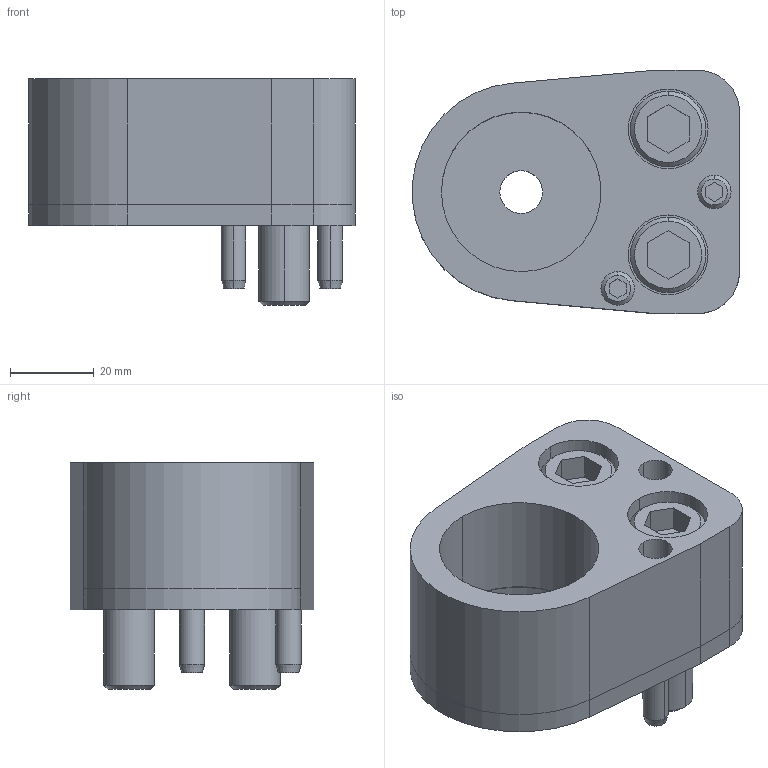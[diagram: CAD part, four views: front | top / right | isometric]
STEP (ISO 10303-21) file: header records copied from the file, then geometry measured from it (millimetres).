
FILE_DESCRIPTION(/* description */ (''),/* implementation_level */ '2;1');
FILE_NAME(/* name */ '3d_dp-ap38_02808_r00.stp',/* time_stamp */ '2011-01-10T14:15:57+09:00',/* author */ ('MISUMI'),/* organization */ (''),/* preprocessor_version */ 'ST-DEVELOPER v11',/* originating_system */ 'UGS - NX 5.0',/* authorisation */ '');
FILE_SCHEMA (('CONFIG_CONTROL_DESIGN'));
Length unit declared in the file: millimetre
Products named in the file (1): 3d_dp-ap38_02808_r00
Bounding box: 77.9 x 58 x 54 mm (x, y, z)
Volume: 102080.9 mm3; surface area: 36701.2 mm2
Topology: 8 solids, 8 shells, 155 faces, 346 edges, 222 vertices
Faces by surface type: plane 67, cylinder 62, cone 26
Entity records: 4480 total; most frequent: DIRECTION 804, CARTESIAN_POINT 778, ORIENTED_EDGE 692, EDGE_CURVE 346, AXIS2_PLACEMENT_3D 306, VERTEX_POINT 222, LINE 192, VECTOR 192
